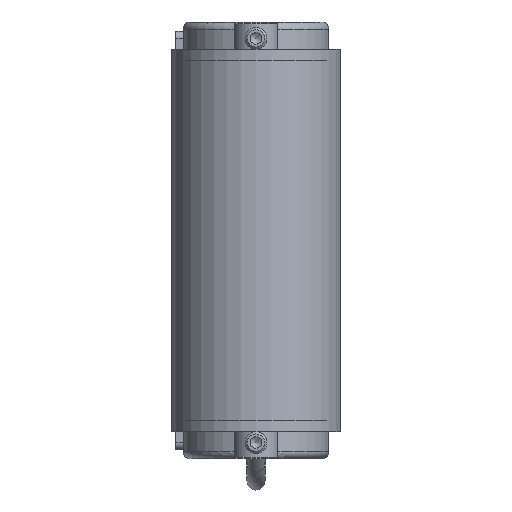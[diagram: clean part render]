
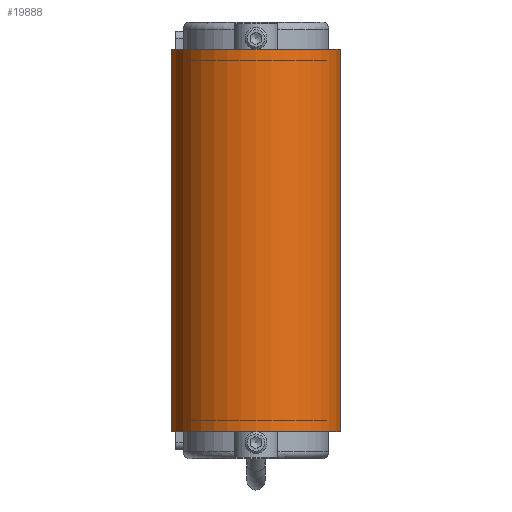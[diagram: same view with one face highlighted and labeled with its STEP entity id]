
A CAD part, front view. The second image highlights one B-rep face of the part: STEP entity #19888.
In plain terms, the highlighted cylindrical face has radius 23.3 mm (diameter 46.6 mm), a partial arc.
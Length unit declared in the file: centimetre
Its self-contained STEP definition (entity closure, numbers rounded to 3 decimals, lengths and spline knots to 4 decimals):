
#654=CYLINDRICAL_SURFACE('',#21519,2.33);
#1592=CIRCLE('',#21514,2.33);
#1595=CIRCLE('',#21520,2.33);
#2562=FACE_OUTER_BOUND('',#3683,.T.);
#3683=EDGE_LOOP('',(#16465,#16466,#16467,#16468));
#5296=LINE('',#34505,#6861);
#5297=LINE('',#34509,#6862);
#6861=VECTOR('',#25939,1.);
#6862=VECTOR('',#25944,1.);
#8877=VERTEX_POINT('',#34488);
#8878=VERTEX_POINT('',#34489);
#8883=VERTEX_POINT('',#34503);
#8884=VERTEX_POINT('',#34507);
#11489=EDGE_CURVE('',#8877,#8878,#1592,.T.);
#11497=EDGE_CURVE('',#8883,#8878,#5296,.T.);
#11498=EDGE_CURVE('',#8883,#8884,#1595,.T.);
#11499=EDGE_CURVE('',#8877,#8884,#5297,.T.);
#16465=ORIENTED_EDGE('',*,*,#11498,.T.);
#16466=ORIENTED_EDGE('',*,*,#11499,.F.);
#16467=ORIENTED_EDGE('',*,*,#11489,.T.);
#16468=ORIENTED_EDGE('',*,*,#11497,.F.);
#19888=ADVANCED_FACE('',(#2562),#654,.T.);
#21514=AXIS2_PLACEMENT_3D('',#34490,#25924,#25925);
#21519=AXIS2_PLACEMENT_3D('',#34506,#25940,#25941);
#21520=AXIS2_PLACEMENT_3D('',#34508,#25942,#25943);
#25924=DIRECTION('center_axis',(0.,0.,
-1.));
#25925=DIRECTION('ref_axis',(-1.,0.,0.));
#25939=DIRECTION('',(0.,0.,1.));
#25940=DIRECTION('center_axis',(0.,0.,
-1.));
#25941=DIRECTION('ref_axis',(-1.,0.,0.));
#25942=DIRECTION('center_axis',(0.,0.,
1.));
#25943=DIRECTION('ref_axis',(-1.,0.,0.));
#25944=DIRECTION('',(0.,0.,-1.));
#34488=CARTESIAN_POINT('',(2.33,-47.,5.25));
#34489=CARTESIAN_POINT('',(-2.33,-47.,5.25));
#34490=CARTESIAN_POINT('Origin',(0.,-47.,5.25));
#34503=CARTESIAN_POINT('',(-2.33,-47.,-5.25));
#34505=CARTESIAN_POINT('',(-2.33,-47.,0.));
#34506=CARTESIAN_POINT('Origin',(0.,-47.,0.));
#34507=CARTESIAN_POINT('',(2.33,-47.,-5.25));
#34508=CARTESIAN_POINT('Origin',(0.,-47.,-5.25));
#34509=CARTESIAN_POINT('',(2.33,-47.,0.));
